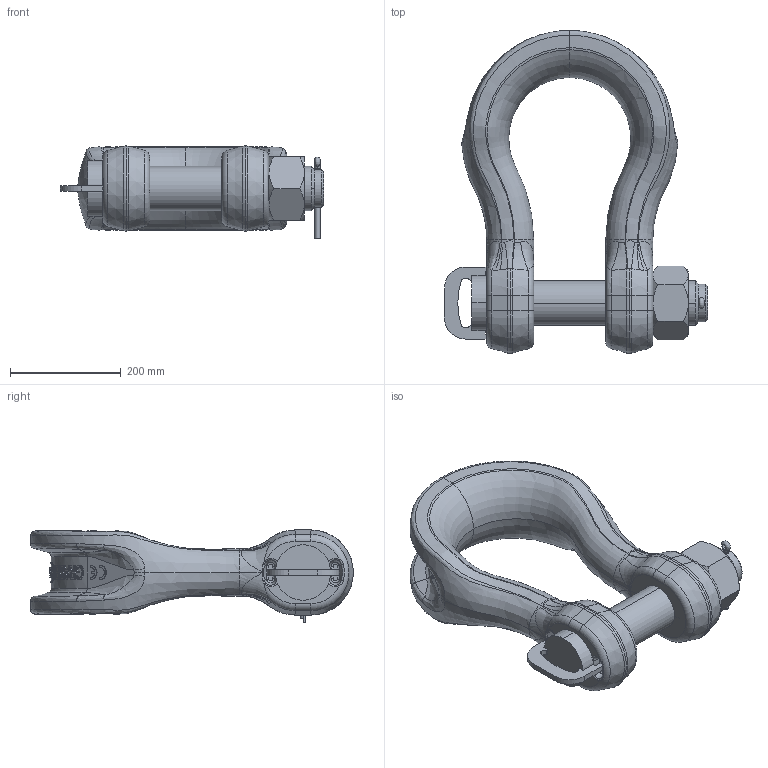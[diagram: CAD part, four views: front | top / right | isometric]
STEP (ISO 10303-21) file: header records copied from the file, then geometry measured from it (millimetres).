
FILE_DESCRIPTION(('STEP AP214'),'1');
FILE_NAME('slgpf0125.stp','2017-04-14T13:16:32',('TraceParts'),('TraceParts S.A.'),'Spatial InterOp 3D',' ',' ');
FILE_SCHEMA(('automotive_design'));
Length unit declared in the file: millimetre
Products named in the file (5): slgpf0125_1; slgpf0125_2; slgpf0125_3; slgpf0125_4; slgpf0125_5
Bounding box: 474.5 x 582.5 x 166.4 mm (x, y, z)
Volume: 11733807.9 mm3; surface area: 709459.2 mm2
Topology: 5 solids, 5 shells, 634 faces, 1662 edges, 1060 vertices
Faces by surface type: bspline 248, plane 190, cylinder 90, cone 58, torus 48
Entity records: 107370 total; most frequent: CARTESIAN_POINT 88174, ORIENTED_EDGE 3322, DIRECTION 2301, EDGE_CURVE 1661, VERTEX_POINT 1060, AXIS2_PLACEMENT_3D 856, EDGE_LOOP 665, PRESENTATION_STYLE_ASSIGNMENT 644
